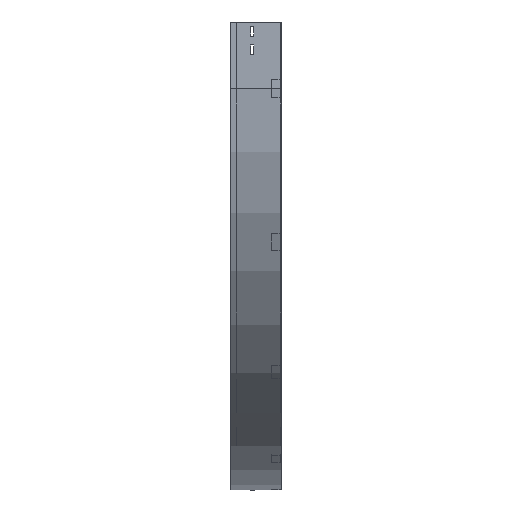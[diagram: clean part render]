
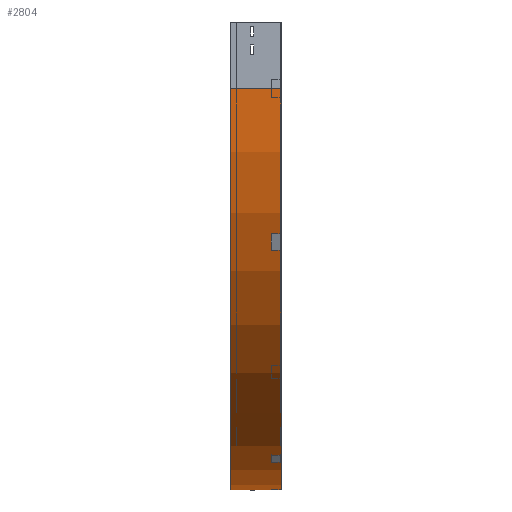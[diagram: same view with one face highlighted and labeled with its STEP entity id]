
A CAD part, left-side view. The second image highlights one B-rep face of the part: STEP entity #2804.
In plain terms, the highlighted cylindrical face has radius 900 mm (diameter 1800 mm), a partial arc.
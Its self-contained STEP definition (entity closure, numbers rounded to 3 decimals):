
#70 = CARTESIAN_POINT ( 'NONE',  ( 900., 0., -150. ) ) ;
#336 = VERTEX_POINT ( 'NONE', #433 ) ;
#341 = DIRECTION ( 'NONE',  ( 0., -1., 0. ) ) ;
#417 = DIRECTION ( 'NONE',  ( 0., -1., 0. ) ) ;
#433 = CARTESIAN_POINT ( 'NONE',  ( 0., 112.5, -150. ) ) ;
#474 = DIRECTION ( 'NONE',  ( -1., 0., 0. ) ) ;
#630 = DIRECTION ( 'NONE',  ( -1., 0., 0. ) ) ;
#890 = EDGE_CURVE ( 'NONE', #336, #3526, #2618, .T. ) ;
#1032 = ORIENTED_EDGE ( 'NONE', *, *, #3786, .T. ) ;
#1183 = DIRECTION ( 'NONE',  ( 0., -1., 0. ) ) ;
#1606 = EDGE_LOOP ( 'NONE', ( #2508, #2069, #1032, #2471 ) ) ;
#1622 = CARTESIAN_POINT ( 'NONE',  ( 900., 0., -1050. ) ) ;
#1657 = CARTESIAN_POINT ( 'NONE',  ( 900., 112.5, -150. ) ) ;
#1728 = CARTESIAN_POINT ( 'NONE',  ( 0., 0., -150. ) ) ;
#1755 = AXIS2_PLACEMENT_3D ( 'NONE', #70, #341, #2386 ) ;
#1837 = VERTEX_POINT ( 'NONE', #3045 ) ;
#1863 = FACE_OUTER_BOUND ( 'NONE', #1606, .T. ) ;
#1936 = CIRCLE ( 'NONE', #3557, 900. ) ;
#2012 = VERTEX_POINT ( 'NONE', #2606 ) ;
#2069 = ORIENTED_EDGE ( 'NONE', *, *, #890, .F. ) ;
#2151 = CIRCLE ( 'NONE', #2655, 900. ) ;
#2212 = EDGE_CURVE ( 'NONE', #3526, #2012, #2151, .T. ) ;
#2386 = DIRECTION ( 'NONE',  ( 0., 0., -1. ) ) ;
#2471 = ORIENTED_EDGE ( 'NONE', *, *, #3305, .T. ) ;
#2508 = ORIENTED_EDGE ( 'NONE', *, *, #2212, .F. ) ;
#2587 = CARTESIAN_POINT ( 'NONE',  ( 0., 0., -150. ) ) ;
#2606 = CARTESIAN_POINT ( 'NONE',  ( 900., 0., -1050. ) ) ;
#2618 = LINE ( 'NONE', #2587, #2893 ) ;
#2655 = AXIS2_PLACEMENT_3D ( 'NONE', #2705, #1183, #630 ) ;
#2705 = CARTESIAN_POINT ( 'NONE',  ( 900., 0., -150. ) ) ;
#2724 = CYLINDRICAL_SURFACE ( 'NONE', #1755, 900. ) ;
#2804 = ADVANCED_FACE ( 'NONE', ( #1863 ), #2724, .T. ) ;
#2893 = VECTOR ( 'NONE', #3491, 1000. ) ;
#3045 = CARTESIAN_POINT ( 'NONE',  ( 900., 112.5, -1050. ) ) ;
#3140 = DIRECTION ( 'NONE',  ( 0., -1., 0. ) ) ;
#3305 = EDGE_CURVE ( 'NONE', #1837, #2012, #3688, .T. ) ;
#3491 = DIRECTION ( 'NONE',  ( 0., -1., 0. ) ) ;
#3526 = VERTEX_POINT ( 'NONE', #1728 ) ;
#3557 = AXIS2_PLACEMENT_3D ( 'NONE', #1657, #3140, #474 ) ;
#3688 = LINE ( 'NONE', #1622, #3750 ) ;
#3750 = VECTOR ( 'NONE', #417, 1000. ) ;
#3786 = EDGE_CURVE ( 'NONE', #336, #1837, #1936, .T. ) ;
